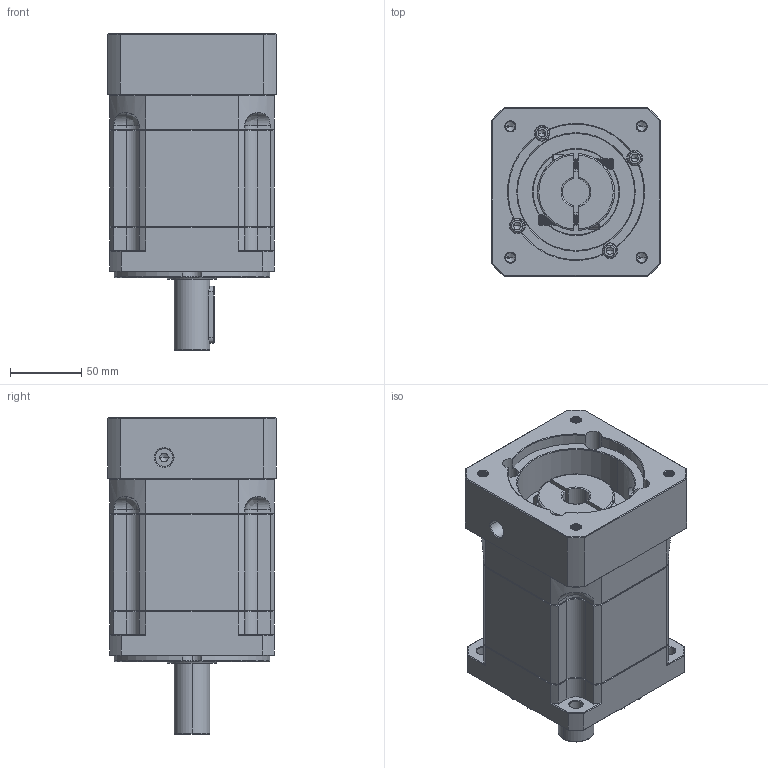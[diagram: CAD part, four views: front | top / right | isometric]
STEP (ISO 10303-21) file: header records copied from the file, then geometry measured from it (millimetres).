
FILE_DESCRIPTION (( 'STEP AP214' ), '1' );
FILE_NAME ('ZB115A-D25-L2-P2-19-95-130-M8.step', '2023-08-26T06:23:12', ( '' ), ( '' ), 'SwSTEP 2.0', 'SolidWorks 2016', '' );
FILE_SCHEMA (( 'AUTOMOTIVE_DESIGN' ));
Length unit declared in the file: millimetre
Products named in the file (1): ZB115A-D25-L2-P2-19-95-130-M8
Bounding box: 118 x 118 x 222 mm (x, y, z)
Volume: 1893754.3 mm3; surface area: 181713.6 mm2
Topology: 6 solids, 6 shells, 2402 faces, 6320 edges, 4014 vertices
Faces by surface type: plane 1144, cylinder 444, bspline 423, cone 371, torus 20
Entity records: 129544 total; most frequent: CARTESIAN_POINT 47426, ORIENTED_EDGE 12572, DIRECTION 9958, EDGE_CURVE 6286, VERTEX_POINT 4014, VECTOR 4004, LINE 4004, AXIS2_PLACEMENT_3D 2977
